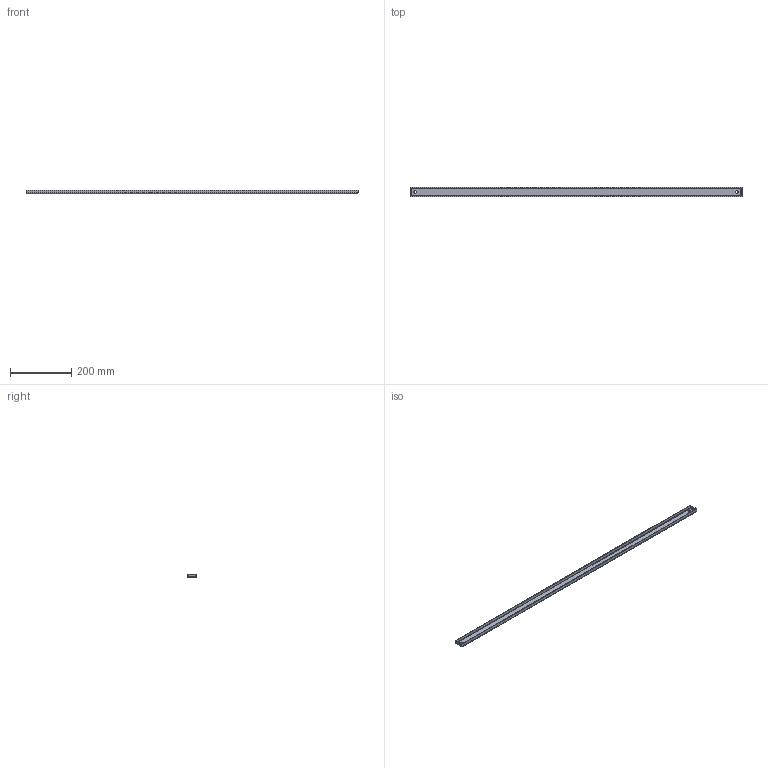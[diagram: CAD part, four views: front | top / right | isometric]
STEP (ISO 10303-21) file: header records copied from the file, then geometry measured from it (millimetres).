
FILE_DESCRIPTION (( 'STEP AP214' ), '1' );
FILE_NAME ('ESB-S-1-SP-1200 Ñåêöèîííàÿ ïåðåìû÷êà 1200.STEP', '2026-07-21T06:39:15', ( '' ), ( '' ), 'SwSTEP 2.0', 'SolidWorks 2020', '' );
FILE_SCHEMA (( 'AUTOMOTIVE_DESIGN' ));
Length unit declared in the file: millimetre
Products named in the file (1): ESB-S-1-SP-1200 Ñåêöèîííàÿ ïåðåìû÷êà 1200
Bounding box: 1080 x 30 x 12 mm (x, y, z)
Volume: 104185.8 mm3; surface area: 108932.5 mm2
Topology: 1 solids, 1 shells, 42 faces, 88 edges, 48 vertices
Faces by surface type: plane 22, cylinder 12, bspline 8
Entity records: 1442 total; most frequent: CARTESIAN_POINT 595, ORIENTED_EDGE 176, DIRECTION 138, EDGE_CURVE 88, VECTOR 52, LINE 52, VERTEX_POINT 48, EDGE_LOOP 46
